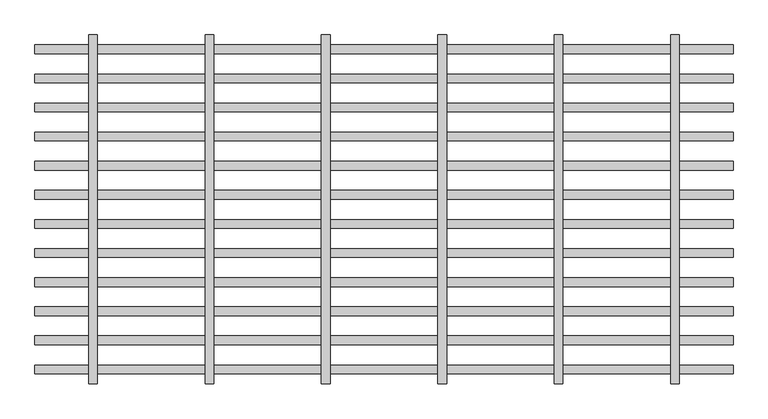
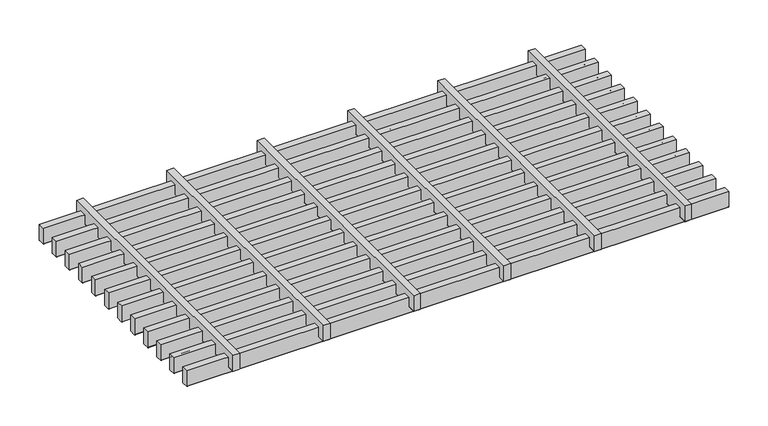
"""IFC4 building model written with IfcOpenShell, lengths in millimetres: proxy geometry, durlum_STARLAM_panel : durlum_STARLAM_15."""

import ifcopenshell
import ifcopenshell.guid

model = None  # the IFC model being written
_history = None  # IfcOwnerHistory: only IFC2X3 demands one
_inside = {}  # id of a spatial element -> (the spatial element, [elements in it])
_under = {}  # id of a project, library or spatial element -> (it, [spatial elements below it])
_declared = {}  # id of a project -> (the project, [libraries it declares])
_typed = {}  # id of a type object -> (the type object, [elements of that type])
_made_of = {}  # id of a material, layer set ... -> (it, [elements and type objects made of it])


def new_model(schema):
    """Start an empty IFC model of exactly this schema.

    Asked for "IFC4X3", IfcOpenShell would pick the latest addendum, in which some entities
    have other attributes; the version numbers below select the first issue.
    IFC2X3 requires an IfcOwnerHistory on every rooted entity: one is made here for all.
    """
    global model, _history
    if schema == "IFC4X3":
        model = ifcopenshell.file(schema_version=(4, 3, 0, 0))
    else:
        model = ifcopenshell.file(schema=schema)
    _inside.clear()
    _under.clear()
    _declared.clear()
    _typed.clear()
    _made_of.clear()
    _history = None
    if model.schema == "IFC2X3":
        org = make("IfcOrganization", Name="unknown")
        user = make(
            "IfcPersonAndOrganization",
            ThePerson=make("IfcPerson", FamilyName="unknown"),
            TheOrganization=org,
        )
        app = make(
            "IfcApplication",
            ApplicationDeveloper=org,
            Version="unknown",
            ApplicationFullName="unknown",
            ApplicationIdentifier="unknown",
        )
        _history = make(
            "IfcOwnerHistory",
            OwningUser=user,
            OwningApplication=app,
            ChangeAction="ADDED",
            CreationDate=0,
        )
    return model


def make(cls, **values):
    """One entity of the class cls with the attributes given. An attribute that is None is left unset."""
    return model.create_entity(
        cls, **{name: value for name, value in values.items() if value is not None}
    )


def rooted(cls, **values):
    """An entity with a GlobalId (a new one), such as an element, a storey or a relation."""
    return make(cls, GlobalId=ifcopenshell.guid.new(), OwnerHistory=_history, **values)


def si_unit(unit_type, name, prefix=None):
    """IfcSIUnit, for example si_unit("LENGTHUNIT", "METRE", prefix="MILLI")."""
    return make("IfcSIUnit", UnitType=unit_type, Prefix=prefix, Name=name)


def assignment(units):
    """IfcUnitAssignment: the units of a project."""
    return None if units is None else make("IfcUnitAssignment", Units=units)


def point(xyz):
    """IfcCartesianPoint."""
    return None if xyz is None else make("IfcCartesianPoint", Coordinates=xyz)


def direction(xyz):
    """IfcDirection."""
    return None if xyz is None else make("IfcDirection", DirectionRatios=xyz)


def frame(location, z_axis=None, x_axis=None):
    """IfcAxis2Placement3D, a coordinate frame: its origin and axes. An axis left out is left unset."""
    return make(
        "IfcAxis2Placement3D",
        Location=point(location),
        Axis=direction(z_axis),
        RefDirection=direction(x_axis),
    )


def frame_2d(location, x_axis=None):
    """IfcAxis2Placement2D, a coordinate frame in the plane: its origin and x axis."""
    return make(
        "IfcAxis2Placement2D", Location=point(location), RefDirection=direction(x_axis)
    )


def origin():
    """The frame at (0, 0, 0) with its axes left unset."""
    return frame((0.0, 0.0, 0.0))


def place(relative_to, where):
    """IfcLocalPlacement: puts the frame where relative to a parent placement (None: the world)."""
    return make(
        "IfcLocalPlacement", PlacementRelTo=relative_to, RelativePlacement=where
    )


def context(
    kind, dimensions, precision=None, world=None, true_north=None, identifier=None
):
    """IfcGeometricRepresentationContext, for example the 3D "Model" context."""
    return make(
        "IfcGeometricRepresentationContext",
        ContextIdentifier=identifier,
        ContextType=kind,
        CoordinateSpaceDimension=dimensions,
        Precision=precision,
        WorldCoordinateSystem=world,
        TrueNorth=true_north,
    )


def project(units=None, contexts=None):
    """IfcProject with its units and contexts."""
    return rooted(
        "IfcProject",
        Name="project",
        RepresentationContexts=contexts,
        UnitsInContext=assignment(units),
    )


def spatial(cls, under=None, at=None, **own):
    """A site, building, storey or space (cls), placed at a placement, below another one or the project."""
    s = rooted(cls, ObjectPlacement=at, **own)
    if under is not None:
        _under.setdefault(under.id(), (under, []))[1].append(s)
    return s


def polyline(points):
    """IfcPolyline through the points."""
    return make("IfcPolyline", Points=[point(p) for p in points])


def circle_curve(where, radius):
    """IfcCircle in the frame where."""
    return make("IfcCircle", Position=where, Radius=radius)


def trimmed(basis, trim1, trim2, sense, master):
    """IfcTrimmedCurve: the piece of a basis curve between two trims."""
    return make(
        "IfcTrimmedCurve",
        BasisCurve=basis,
        Trim1=trim1,
        Trim2=trim2,
        SenseAgreement=sense,
        MasterRepresentation=master,
    )


def segment(curve, same_sense, transition):
    """IfcCompositeCurveSegment."""
    return make(
        "IfcCompositeCurveSegment",
        Transition=transition,
        SameSense=same_sense,
        ParentCurve=curve,
    )


def composite_curve(segments, self_intersect=None):
    """IfcCompositeCurve: segments joined end to end."""
    return make("IfcCompositeCurve", Segments=segments, SelfIntersect=self_intersect)


def outline(outer, holes=None, kind="AREA"):
    """IfcArbitraryClosedProfileDef: a profile drawn as a closed curve; with holes, ...WithVoids."""
    if holes is None:
        return make("IfcArbitraryClosedProfileDef", ProfileType=kind, OuterCurve=outer)
    return make(
        "IfcArbitraryProfileDefWithVoids",
        ProfileType=kind,
        OuterCurve=outer,
        InnerCurves=holes,
    )


def extrude(swept, where, along, depth):
    """IfcExtrudedAreaSolid: the profile swept, set in the frame where, extruded along a direction by depth."""
    return make(
        "IfcExtrudedAreaSolid",
        SweptArea=swept,
        Position=where,
        ExtrudedDirection=direction(along),
        Depth=depth,
    )


def shape(context_of_items, identifier, shape_type, items):
    """IfcShapeRepresentation: the items that make up one representation, for example the "Body"."""
    return make(
        "IfcShapeRepresentation",
        ContextOfItems=context_of_items,
        RepresentationIdentifier=identifier,
        RepresentationType=shape_type,
        Items=items,
    )


def source(mapping_origin, context_of_items, identifier, shape_type, items):
    """IfcRepresentationMap: a shape defined once, which mapped items show again and again."""
    return make(
        "IfcRepresentationMap",
        MappingOrigin=mapping_origin,
        MappedRepresentation=shape(context_of_items, identifier, shape_type, items),
    )


def transform(
    local_origin,
    x_axis=None,
    y_axis=None,
    z_axis=None,
    scale=None,
    scale2=None,
    scale3=None,
    uniform=True,
):
    """IfcCartesianTransformationOperator3D, or its non-uniform kind. x_axis, y_axis, z_axis: its Axis1, 2, 3."""
    if uniform:
        return make(
            "IfcCartesianTransformationOperator3D",
            Axis1=direction(x_axis),
            Axis2=direction(y_axis),
            LocalOrigin=point(local_origin),
            Scale=scale,
            Axis3=direction(z_axis),
        )
    return make(
        "IfcCartesianTransformationOperator3DnonUniform",
        Axis1=direction(x_axis),
        Axis2=direction(y_axis),
        LocalOrigin=point(local_origin),
        Scale=scale,
        Axis3=direction(z_axis),
        Scale2=scale2,
        Scale3=scale3,
    )


def mapped(mapping_source, mapping_target):
    """IfcMappedItem: shows the shape of a source again, moved by a transform."""
    return make(
        "IfcMappedItem", MappingSource=mapping_source, MappingTarget=mapping_target
    )


def made_of(thing, what):
    """Note that an element or type object is made of a material, layer set ...; save() writes the relation."""
    if what is not None:
        _made_of.setdefault(what.id(), (what, []))[1].append(thing)
    return thing


def element(
    cls,
    number,
    at=None,
    inside=None,
    cuts=None,
    type_object=None,
    material=None,
    context=None,
    identifier="Body",
    shape_type=None,
    held_by="IfcProductDefinitionShape",
    body=None,
    shapes=None,
    **own,
):
    """One element of the class cls, such as IfcWall. Its Tag is "e" and its number.

    at: its placement. inside: the storey or other place that contains it. cuts: it is an
    opening in that element (IfcRelVoidsElement). A single representation is given by context,
    identifier, shape_type and body (its items); several are given by shapes. held_by: the class
    of the entity that holds the representations. save() writes the other relations.
    """
    e = rooted(cls, Tag="e%d" % number, ObjectPlacement=at, **own)
    if body is not None:
        shapes = [shape(context, identifier, shape_type, body)]
    if shapes is not None:
        e.Representation = make(held_by, Representations=shapes)
    if inside is not None:
        _inside.setdefault(inside.id(), (inside, []))[1].append(e)
    if cuts is not None:
        rooted(
            "IfcRelVoidsElement", RelatingBuildingElement=cuts, RelatedOpeningElement=e
        )
    if type_object is not None:
        _typed.setdefault(type_object.id(), (type_object, []))[1].append(e)
    return made_of(e, material)


def aggregate(whole, parts):
    """IfcRelAggregates: a whole, such as a stair, and the parts it consists of."""
    return rooted("IfcRelAggregates", RelatingObject=whole, RelatedObjects=parts)


def save(model, path):
    """Write the relations noted so far, then the file.

    IfcRelAggregates (storeys below a building ...), IfcRelContainedInSpatialStructure (elements
    in a storey), IfcRelDefinesByType, IfcRelAssociatesMaterial and IfcRelDeclares: one each for
    every whole, place, type object, material and project.
    """
    for whole, parts in _under.values():
        aggregate(whole, parts)
    for where, things in _inside.values():
        rooted(
            "IfcRelContainedInSpatialStructure",
            RelatedElements=things,
            RelatingStructure=where,
        )
    for kind, things in _typed.values():
        rooted("IfcRelDefinesByType", RelatedObjects=things, RelatingType=kind)
    for what, things in _made_of.values():
        rooted("IfcRelAssociatesMaterial", RelatedObjects=things, RelatingMaterial=what)
    for by, libraries in _declared.values():
        rooted("IfcRelDeclares", RelatingContext=by, RelatedDefinitions=libraries)
    model.write(path)


def generic_models_69343ad7(model_context):
    return source(origin(), model_context, "Body", "SweptSolid", [
        extrude(outline(composite_curve([segment(polyline([(-232.5, 37.0), (-217.5, 37.0), (-217.5, 0.5)]), True, "CONTINUOUS"), segment(trimmed(circle_curve(frame_2d((-218.0, 0.5)), 0.5), [point((-217.5, 0.5))], [point((-218.0, 0.0))], False, "CARTESIAN"), True, "CONTINUOUS"), segment(polyline([(-218.0, 0.0), (-232.0, 0.0)]), True, "CONTINUOUS"), segment(trimmed(circle_curve(frame_2d((-232.0, 0.5)), 0.5), [point((-232.0, 0.0))], [point((-232.5, 0.5))], False, "CARTESIAN"), True, "CONTINUOUS"), segment(polyline([(-232.5, 0.5), (-232.5, 37.0)]), True, "CONTINUOUS")], self_intersect=False)), frame((-599.75, 0.0, 0.0), z_axis=(1.0, 0.0, 0.0), x_axis=(0.0, 1.0, 0.0)), (0.0, 0.0, 1.0), 1199.5),
        extrude(outline(composite_curve([segment(polyline([(-182.5, 37.0), (-167.5, 37.0), (-167.5, 0.5)]), True, "CONTINUOUS"), segment(trimmed(circle_curve(frame_2d((-168.0, 0.5)), 0.5), [point((-167.5, 0.5))], [point((-168.0, 0.0))], False, "CARTESIAN"), True, "CONTINUOUS"), segment(polyline([(-168.0, 0.0), (-182.0, 0.0)]), True, "CONTINUOUS"), segment(trimmed(circle_curve(frame_2d((-182.0, 0.5)), 0.5), [point((-182.0, 0.0))], [point((-182.5, 0.5))], False, "CARTESIAN"), True, "CONTINUOUS"), segment(polyline([(-182.5, 0.5), (-182.5, 37.0)]), True, "CONTINUOUS")], self_intersect=False)), frame((-599.75, 0.0, 0.0), z_axis=(1.0, 0.0, 0.0), x_axis=(0.0, 1.0, 0.0)), (0.0, 0.0, 1.0), 1199.5),
        extrude(outline(composite_curve([segment(polyline([(-132.5, 37.0), (-117.5, 37.0), (-117.5, 0.5)]), True, "CONTINUOUS"), segment(trimmed(circle_curve(frame_2d((-118.0, 0.5)), 0.5), [point((-117.5, 0.5))], [point((-118.0, 0.0))], False, "CARTESIAN"), True, "CONTINUOUS"), segment(polyline([(-118.0, 0.0), (-132.0, 0.0)]), True, "CONTINUOUS"), segment(trimmed(circle_curve(frame_2d((-132.0, 0.5)), 0.5), [point((-132.0, 0.0))], [point((-132.5, 0.5))], False, "CARTESIAN"), True, "CONTINUOUS"), segment(polyline([(-132.5, 0.5), (-132.5, 37.0)]), True, "CONTINUOUS")], self_intersect=False)), frame((-599.75, 0.0, 0.0), z_axis=(1.0, 0.0, 0.0), x_axis=(0.0, 1.0, 0.0)), (0.0, 0.0, 1.0), 1199.5),
        extrude(outline(composite_curve([segment(polyline([(-82.5, 37.0), (-67.5, 37.0), (-67.5, 0.5)]), True, "CONTINUOUS"), segment(trimmed(circle_curve(frame_2d((-68.0, 0.5)), 0.5), [point((-67.5, 0.5))], [point((-68.0, 0.0))], False, "CARTESIAN"), True, "CONTINUOUS"), segment(polyline([(-68.0, 0.0), (-82.0, 0.0)]), True, "CONTINUOUS"), segment(trimmed(circle_curve(frame_2d((-82.0, 0.5)), 0.5), [point((-82.0, 0.0))], [point((-82.5, 0.5))], False, "CARTESIAN"), True, "CONTINUOUS"), segment(polyline([(-82.5, 0.5), (-82.5, 37.0)]), True, "CONTINUOUS")], self_intersect=False)), frame((-599.75, 0.0, 0.0), z_axis=(1.0, 0.0, 0.0), x_axis=(0.0, 1.0, 0.0)), (0.0, 0.0, 1.0), 1199.5),
        extrude(outline(composite_curve([segment(polyline([(51.0, 307.5), (51.0, 292.5), (14.5, 292.5)]), True, "CONTINUOUS"), segment(trimmed(circle_curve(frame_2d((14.5, 293.0)), 0.5), [point((14.5, 292.5))], [point((14.0, 293.0))], False, "CARTESIAN"), True, "CONTINUOUS"), segment(polyline([(14.0, 293.0), (14.0, 307.0)]), True, "CONTINUOUS"), segment(trimmed(circle_curve(frame_2d((14.5, 307.0)), 0.5), [point((14.0, 307.0))], [point((14.5, 307.5))], False, "CARTESIAN"), True, "CONTINUOUS"), segment(polyline([(14.5, 307.5), (51.0, 307.5)]), True, "CONTINUOUS")], self_intersect=False)), frame((0.0, -299.75, 0.0), z_axis=(0.0, 1.0, 0.0), x_axis=(0.0, 0.0, 1.0)), (0.0, 0.0, 1.0), 599.5),
        extrude(outline(composite_curve([segment(polyline([(51.0, 107.5), (51.0, 92.5), (14.5, 92.5)]), True, "CONTINUOUS"), segment(trimmed(circle_curve(frame_2d((14.5, 93.0)), 0.5), [point((14.5, 92.5))], [point((14.0, 93.0))], False, "CARTESIAN"), True, "CONTINUOUS"), segment(polyline([(14.0, 93.0), (14.0, 107.0)]), True, "CONTINUOUS"), segment(trimmed(circle_curve(frame_2d((14.5, 107.0)), 0.5), [point((14.0, 107.0))], [point((14.5, 107.5))], False, "CARTESIAN"), True, "CONTINUOUS"), segment(polyline([(14.5, 107.5), (51.0, 107.5)]), True, "CONTINUOUS")], self_intersect=False)), frame((0.0, -299.75, 0.0), z_axis=(0.0, 1.0, 0.0), x_axis=(0.0, 0.0, 1.0)), (0.0, 0.0, 1.0), 599.5),
        extrude(outline(composite_curve([segment(polyline([(51.0, -92.5), (51.0, -107.5), (14.5, -107.5)]), True, "CONTINUOUS"), segment(trimmed(circle_curve(frame_2d((14.5, -107.0)), 0.5), [point((14.5, -107.5))], [point((14.0, -107.0))], False, "CARTESIAN"), True, "CONTINUOUS"), segment(polyline([(14.0, -107.0), (14.0, -93.0)]), True, "CONTINUOUS"), segment(trimmed(circle_curve(frame_2d((14.5, -93.0)), 0.5), [point((14.0, -93.0))], [point((14.5, -92.5))], False, "CARTESIAN"), True, "CONTINUOUS"), segment(polyline([(14.5, -92.5), (51.0, -92.5)]), True, "CONTINUOUS")], self_intersect=False)), frame((0.0, -299.75, 0.0), z_axis=(0.0, 1.0, 0.0), x_axis=(0.0, 0.0, 1.0)), (0.0, 0.0, 1.0), 599.5),
        extrude(outline(composite_curve([segment(polyline([(51.0, -292.5), (51.0, -307.5), (14.5, -307.5)]), True, "CONTINUOUS"), segment(trimmed(circle_curve(frame_2d((14.5, -307.0)), 0.5), [point((14.5, -307.5))], [point((14.0, -307.0))], False, "CARTESIAN"), True, "CONTINUOUS"), segment(polyline([(14.0, -307.0), (14.0, -293.0)]), True, "CONTINUOUS"), segment(trimmed(circle_curve(frame_2d((14.5, -293.0)), 0.5), [point((14.0, -293.0))], [point((14.5, -292.5))], False, "CARTESIAN"), True, "CONTINUOUS"), segment(polyline([(14.5, -292.5), (51.0, -292.5)]), True, "CONTINUOUS")], self_intersect=False)), frame((0.0, -299.75, 0.0), z_axis=(0.0, 1.0, 0.0), x_axis=(0.0, 0.0, 1.0)), (0.0, 0.0, 1.0), 599.5),
        extrude(outline(composite_curve([segment(polyline([(-32.5, 37.0), (-17.5, 37.0), (-17.5, 0.5)]), True, "CONTINUOUS"), segment(trimmed(circle_curve(frame_2d((-18.0, 0.5)), 0.5), [point((-17.5, 0.5))], [point((-18.0, 0.0))], False, "CARTESIAN"), True, "CONTINUOUS"), segment(polyline([(-18.0, 0.0), (-32.0, 0.0)]), True, "CONTINUOUS"), segment(trimmed(circle_curve(frame_2d((-32.0, 0.5)), 0.5), [point((-32.0, 0.0))], [point((-32.5, 0.5))], False, "CARTESIAN"), True, "CONTINUOUS"), segment(polyline([(-32.5, 0.5), (-32.5, 37.0)]), True, "CONTINUOUS")], self_intersect=False)), frame((-599.75, 0.0, 0.0), z_axis=(1.0, 0.0, 0.0), x_axis=(0.0, 1.0, 0.0)), (0.0, 0.0, 1.0), 1199.5),
        extrude(outline(composite_curve([segment(polyline([(17.5, 37.0), (32.5, 37.0), (32.5, 0.5)]), True, "CONTINUOUS"), segment(trimmed(circle_curve(frame_2d((32.0, 0.5)), 0.5), [point((32.5, 0.5))], [point((32.0, 0.0))], False, "CARTESIAN"), True, "CONTINUOUS"), segment(polyline([(32.0, 0.0), (18.0, 0.0)]), True, "CONTINUOUS"), segment(trimmed(circle_curve(frame_2d((18.0, 0.5)), 0.5), [point((18.0, 0.0))], [point((17.5, 0.5))], False, "CARTESIAN"), True, "CONTINUOUS"), segment(polyline([(17.5, 0.5), (17.5, 37.0)]), True, "CONTINUOUS")], self_intersect=False)), frame((-599.75, 0.0, 0.0), z_axis=(1.0, 0.0, 0.0), x_axis=(0.0, 1.0, 0.0)), (0.0, 0.0, 1.0), 1199.5),
        extrude(outline(composite_curve([segment(polyline([(67.5, 37.0), (82.5, 37.0), (82.5, 0.5)]), True, "CONTINUOUS"), segment(trimmed(circle_curve(frame_2d((82.0, 0.5)), 0.5), [point((82.5, 0.5))], [point((82.0, 0.0))], False, "CARTESIAN"), True, "CONTINUOUS"), segment(polyline([(82.0, 0.0), (68.0, 0.0)]), True, "CONTINUOUS"), segment(trimmed(circle_curve(frame_2d((68.0, 0.5)), 0.5), [point((68.0, 0.0))], [point((67.5, 0.5))], False, "CARTESIAN"), True, "CONTINUOUS"), segment(polyline([(67.5, 0.5), (67.5, 37.0)]), True, "CONTINUOUS")], self_intersect=False)), frame((-599.75, 0.0, 0.0), z_axis=(1.0, 0.0, 0.0), x_axis=(0.0, 1.0, 0.0)), (0.0, 0.0, 1.0), 1199.5),
        extrude(outline(composite_curve([segment(polyline([(117.5, 37.0), (132.5, 37.0), (132.5, 0.5)]), True, "CONTINUOUS"), segment(trimmed(circle_curve(frame_2d((132.0, 0.5)), 0.5), [point((132.5, 0.5))], [point((132.0, 0.0))], False, "CARTESIAN"), True, "CONTINUOUS"), segment(polyline([(132.0, 0.0), (118.0, 0.0)]), True, "CONTINUOUS"), segment(trimmed(circle_curve(frame_2d((118.0, 0.5)), 0.5), [point((118.0, 0.0))], [point((117.5, 0.5))], False, "CARTESIAN"), True, "CONTINUOUS"), segment(polyline([(117.5, 0.5), (117.5, 37.0)]), True, "CONTINUOUS")], self_intersect=False)), frame((-599.75, 0.0, 0.0), z_axis=(1.0, 0.0, 0.0), x_axis=(0.0, 1.0, 0.0)), (0.0, 0.0, 1.0), 1199.5),
        extrude(outline(composite_curve([segment(polyline([(167.5, 37.0), (182.5, 37.0), (182.5, 0.5)]), True, "CONTINUOUS"), segment(trimmed(circle_curve(frame_2d((182.0, 0.5)), 0.5), [point((182.5, 0.5))], [point((182.0, 0.0))], False, "CARTESIAN"), True, "CONTINUOUS"), segment(polyline([(182.0, 0.0), (168.0, 0.0)]), True, "CONTINUOUS"), segment(trimmed(circle_curve(frame_2d((168.0, 0.5)), 0.5), [point((168.0, 0.0))], [point((167.5, 0.5))], False, "CARTESIAN"), True, "CONTINUOUS"), segment(polyline([(167.5, 0.5), (167.5, 37.0)]), True, "CONTINUOUS")], self_intersect=False)), frame((-599.75, 0.0, 0.0), z_axis=(1.0, 0.0, 0.0), x_axis=(0.0, 1.0, 0.0)), (0.0, 0.0, 1.0), 1199.5),
        extrude(outline(composite_curve([segment(polyline([(217.5, 37.0), (232.5, 37.0), (232.5, 0.5)]), True, "CONTINUOUS"), segment(trimmed(circle_curve(frame_2d((232.0, 0.5)), 0.5), [point((232.5, 0.5))], [point((232.0, 0.0))], False, "CARTESIAN"), True, "CONTINUOUS"), segment(polyline([(232.0, 0.0), (218.0, 0.0)]), True, "CONTINUOUS"), segment(trimmed(circle_curve(frame_2d((218.0, 0.5)), 0.5), [point((218.0, 0.0))], [point((217.5, 0.5))], False, "CARTESIAN"), True, "CONTINUOUS"), segment(polyline([(217.5, 0.5), (217.5, 37.0)]), True, "CONTINUOUS")], self_intersect=False)), frame((-599.75, 0.0, 0.0), z_axis=(1.0, 0.0, 0.0), x_axis=(0.0, 1.0, 0.0)), (0.0, 0.0, 1.0), 1199.5),
        extrude(outline(composite_curve([segment(polyline([(51.0, 507.5), (51.0, 492.5), (14.5, 492.5)]), True, "CONTINUOUS"), segment(trimmed(circle_curve(frame_2d((14.5, 493.0)), 0.5), [point((14.5, 492.5))], [point((14.0, 493.0))], False, "CARTESIAN"), True, "CONTINUOUS"), segment(polyline([(14.0, 493.0), (14.0, 507.0)]), True, "CONTINUOUS"), segment(trimmed(circle_curve(frame_2d((14.5, 507.0)), 0.5), [point((14.0, 507.0))], [point((14.5, 507.5))], False, "CARTESIAN"), True, "CONTINUOUS"), segment(polyline([(14.5, 507.5), (51.0, 507.5)]), True, "CONTINUOUS")], self_intersect=False)), frame((0.0, -299.75, 0.0), z_axis=(0.0, 1.0, 0.0), x_axis=(0.0, 0.0, 1.0)), (0.0, 0.0, 1.0), 599.5),
        extrude(outline(composite_curve([segment(polyline([(51.0, -492.5), (51.0, -507.5), (14.5, -507.5)]), True, "CONTINUOUS"), segment(trimmed(circle_curve(frame_2d((14.5, -507.0)), 0.5), [point((14.5, -507.5))], [point((14.0, -507.0))], False, "CARTESIAN"), True, "CONTINUOUS"), segment(polyline([(14.0, -507.0), (14.0, -493.0)]), True, "CONTINUOUS"), segment(trimmed(circle_curve(frame_2d((14.5, -493.0)), 0.5), [point((14.0, -493.0))], [point((14.5, -492.5))], False, "CARTESIAN"), True, "CONTINUOUS"), segment(polyline([(14.5, -492.5), (51.0, -492.5)]), True, "CONTINUOUS")], self_intersect=False)), frame((0.0, -299.75, 0.0), z_axis=(0.0, 1.0, 0.0), x_axis=(0.0, 0.0, 1.0)), (0.0, 0.0, 1.0), 599.5),
        extrude(outline(composite_curve([segment(polyline([(-282.5, 37.0), (-267.5, 37.0), (-267.5, 0.5)]), True, "CONTINUOUS"), segment(trimmed(circle_curve(frame_2d((-268.0, 0.5)), 0.5), [point((-267.5, 0.5))], [point((-268.0, 0.0))], False, "CARTESIAN"), True, "CONTINUOUS"), segment(polyline([(-268.0, 0.0), (-282.0, 0.0)]), True, "CONTINUOUS"), segment(trimmed(circle_curve(frame_2d((-282.0, 0.5)), 0.5), [point((-282.0, 0.0))], [point((-282.5, 0.5))], False, "CARTESIAN"), True, "CONTINUOUS"), segment(polyline([(-282.5, 0.5), (-282.5, 37.0)]), True, "CONTINUOUS")], self_intersect=False)), frame((-599.75, 0.0, 0.0), z_axis=(1.0, 0.0, 0.0), x_axis=(0.0, 1.0, 0.0)), (0.0, 0.0, 1.0), 1199.5),
        extrude(outline(composite_curve([segment(polyline([(267.5, 37.0), (282.5, 37.0), (282.5, 0.5)]), True, "CONTINUOUS"), segment(trimmed(circle_curve(frame_2d((282.0, 0.5)), 0.5), [point((282.5, 0.5))], [point((282.0, 0.0))], False, "CARTESIAN"), True, "CONTINUOUS"), segment(polyline([(282.0, 0.0), (268.0, 0.0)]), True, "CONTINUOUS"), segment(trimmed(circle_curve(frame_2d((268.0, 0.5)), 0.5), [point((268.0, 0.0))], [point((267.5, 0.5))], False, "CARTESIAN"), True, "CONTINUOUS"), segment(polyline([(267.5, 0.5), (267.5, 37.0)]), True, "CONTINUOUS")], self_intersect=False)), frame((-599.75, 0.0, 0.0), z_axis=(1.0, 0.0, 0.0), x_axis=(0.0, 1.0, 0.0)), (0.0, 0.0, 1.0), 1199.5),
    ])


if __name__ == "__main__":
    model = new_model("IFC4")
    model_context = context("Model", 3, world=origin())
    ifc_project = project(units=[si_unit("LENGTHUNIT", "METRE", prefix="MILLI")], contexts=[model_context])
    site = spatial("IfcSite", under=ifc_project)
    building = spatial("IfcBuilding", under=site)
    placement = place(None, origin())
    generic_models_shape = generic_models_69343ad7(model_context)
    element("IfcBuildingElementProxy", 1, Name="durlum_STARLAM_panel : durlum_STARLAM_15", ObjectType="durlum_STARLAM_panel : durlum_STARLAM_15", at=placement, inside=building, context=model_context, shape_type="MappedRepresentation", body=[
        mapped(generic_models_shape, transform((0.0, 0.0, 0.0), x_axis=(1.0, 0.0, 0.0), y_axis=(0.0, 1.0, 0.0), z_axis=(0.0, 0.0, 1.0))),
    ])
    save(model, "model.ifc")
